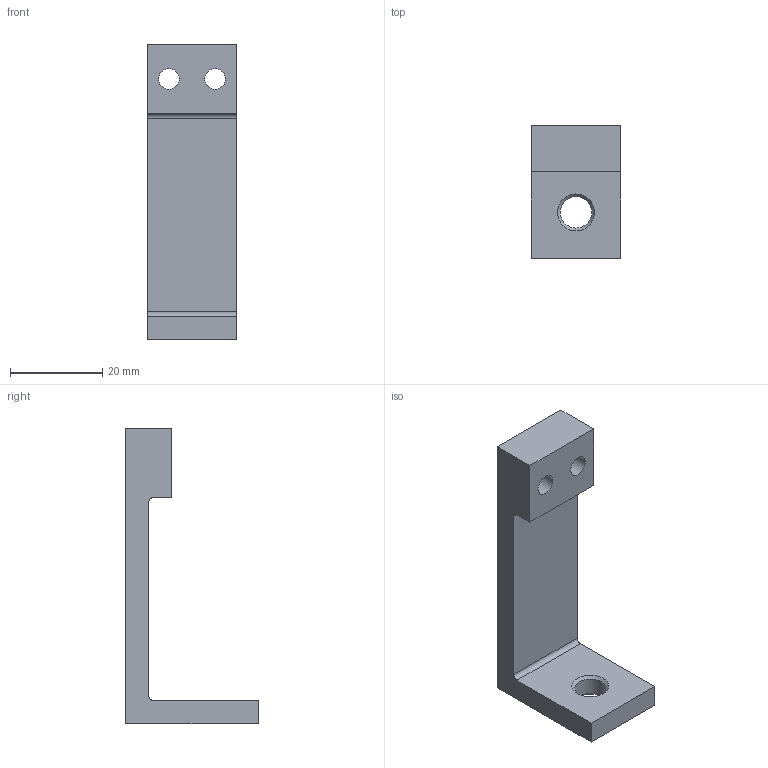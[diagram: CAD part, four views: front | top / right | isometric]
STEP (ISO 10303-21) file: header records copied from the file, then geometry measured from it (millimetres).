
FILE_DESCRIPTION(/* description */ (''),/* implementation_level */ '2;1');
FILE_NAME(/* name */ '导电滑环连接板.stp',/* time_stamp */ '2026-09-19T17:39:26+08:00',/* author */ (''),/* organization */ (''),/* preprocessor_version */ 'ST-DEVELOPER v20',/* originating_system */ 'SIEMENS PLM Software NX2312.1700',/* authorisation */ '');
FILE_SCHEMA (('AUTOMOTIVE_DESIGN { 1 0 10303 214 3 1 1 1 }'));
Length unit declared in the file: millimetre
Products named in the file (1): 导电滑环连接板
Bounding box: 19.5 x 28.75 x 64 mm (x, y, z)
Volume: 9518.7 mm3; surface area: 5063.1 mm2
Topology: 1 solids, 1 shells, 17 faces, 47 edges, 32 vertices
Faces by surface type: plane 10, cylinder 5, cone 2
Full cylindrical faces by diameter (mm): 4.5 x2, 6.8 x1
Entity records: 524 total; most frequent: DIRECTION 86, CARTESIAN_POINT 84, ORIENTED_EDGE 76, EDGE_CURVE 38, AXIS2_PLACEMENT_3D 30, EDGE_LOOP 28, VERTEX_POINT 28, LINE 26
